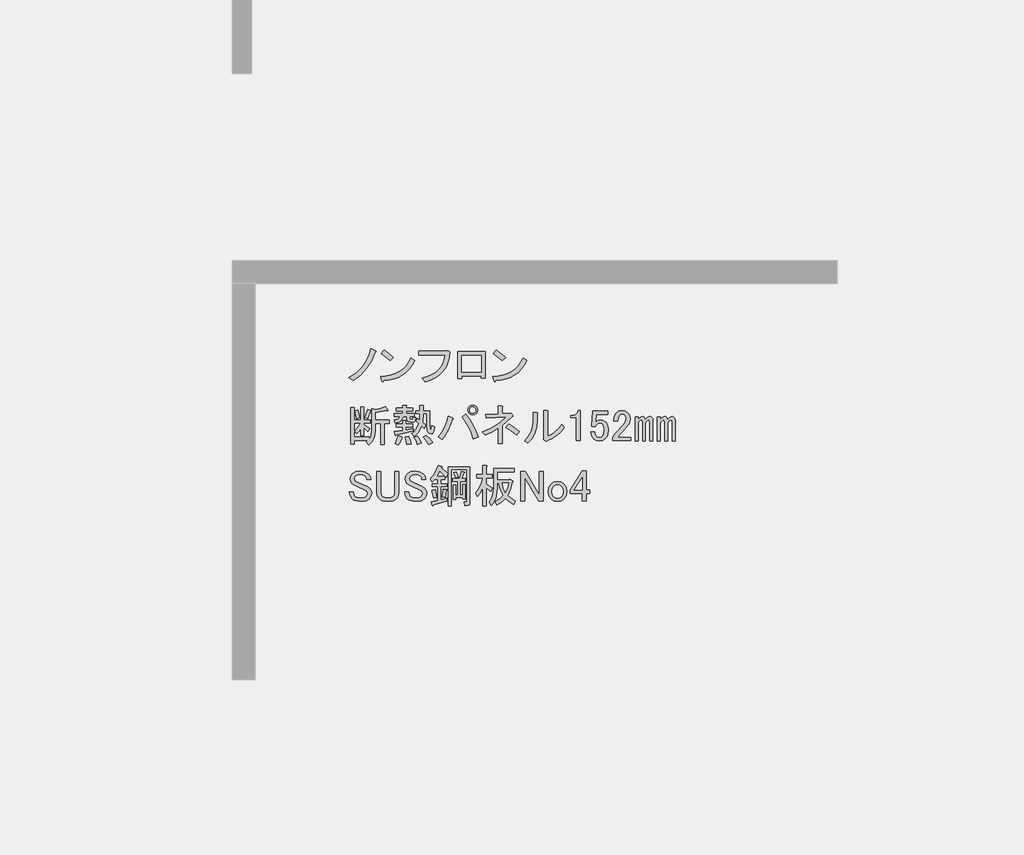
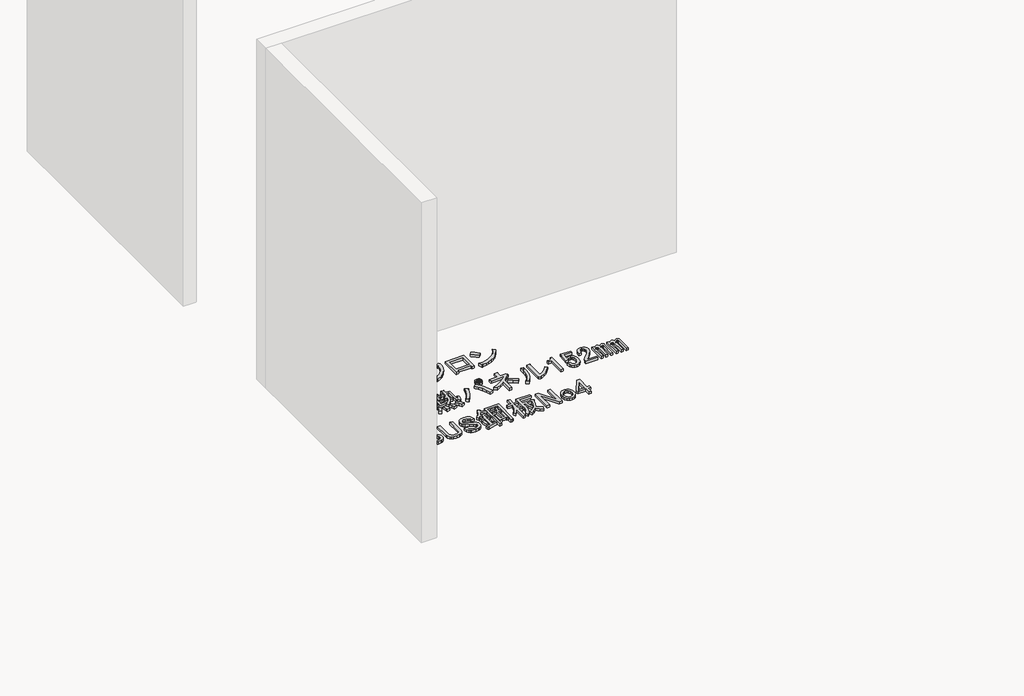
# One storey, part 44 of 117: 1 proxy.
"""IFC4 building model written with IfcOpenShell, lengths in millimetres."""

import ifcopenshell
import ifcopenshell.guid

model = None  # the IFC model being written
_history = None  # IfcOwnerHistory: only IFC2X3 demands one
_inside = {}  # id of a spatial element -> (the spatial element, [elements in it])
_under = {}  # id of a project, library or spatial element -> (it, [spatial elements below it])
_declared = {}  # id of a project -> (the project, [libraries it declares])
_typed = {}  # id of a type object -> (the type object, [elements of that type])
_made_of = {}  # id of a material, layer set ... -> (it, [elements and type objects made of it])


def new_model(schema):
    """Start an empty IFC model of exactly this schema.

    Asked for "IFC4X3", IfcOpenShell would pick the latest addendum, in which some entities
    have other attributes; the version numbers below select the first issue.
    IFC2X3 requires an IfcOwnerHistory on every rooted entity: one is made here for all.
    """
    global model, _history
    if schema == "IFC4X3":
        model = ifcopenshell.file(schema_version=(4, 3, 0, 0))
    else:
        model = ifcopenshell.file(schema=schema)
    _inside.clear()
    _under.clear()
    _declared.clear()
    _typed.clear()
    _made_of.clear()
    _history = None
    if model.schema == "IFC2X3":
        org = make("IfcOrganization", Name="unknown")
        user = make(
            "IfcPersonAndOrganization",
            ThePerson=make("IfcPerson", FamilyName="unknown"),
            TheOrganization=org,
        )
        app = make(
            "IfcApplication",
            ApplicationDeveloper=org,
            Version="unknown",
            ApplicationFullName="unknown",
            ApplicationIdentifier="unknown",
        )
        _history = make(
            "IfcOwnerHistory",
            OwningUser=user,
            OwningApplication=app,
            ChangeAction="ADDED",
            CreationDate=0,
        )
    return model


def make(cls, **values):
    """One entity of the class cls with the attributes given. An attribute that is None is left unset."""
    return model.create_entity(
        cls, **{name: value for name, value in values.items() if value is not None}
    )


def rooted(cls, **values):
    """An entity with a GlobalId (a new one), such as an element, a storey or a relation."""
    return make(cls, GlobalId=ifcopenshell.guid.new(), OwnerHistory=_history, **values)


def si_unit(unit_type, name, prefix=None):
    """IfcSIUnit, for example si_unit("LENGTHUNIT", "METRE", prefix="MILLI")."""
    return make("IfcSIUnit", UnitType=unit_type, Prefix=prefix, Name=name)


def assignment(units):
    """IfcUnitAssignment: the units of a project."""
    return None if units is None else make("IfcUnitAssignment", Units=units)


def point(xyz):
    """IfcCartesianPoint."""
    return None if xyz is None else make("IfcCartesianPoint", Coordinates=xyz)


def direction(xyz):
    """IfcDirection."""
    return None if xyz is None else make("IfcDirection", DirectionRatios=xyz)


def frame(location, z_axis=None, x_axis=None):
    """IfcAxis2Placement3D, a coordinate frame: its origin and axes. An axis left out is left unset."""
    return make(
        "IfcAxis2Placement3D",
        Location=point(location),
        Axis=direction(z_axis),
        RefDirection=direction(x_axis),
    )


def origin():
    """The frame at (0, 0, 0) with its axes left unset."""
    return frame((0.0, 0.0, 0.0))


def place(relative_to, where):
    """IfcLocalPlacement: puts the frame where relative to a parent placement (None: the world)."""
    return make(
        "IfcLocalPlacement", PlacementRelTo=relative_to, RelativePlacement=where
    )


def context(
    kind, dimensions, precision=None, world=None, true_north=None, identifier=None
):
    """IfcGeometricRepresentationContext, for example the 3D "Model" context."""
    return make(
        "IfcGeometricRepresentationContext",
        ContextIdentifier=identifier,
        ContextType=kind,
        CoordinateSpaceDimension=dimensions,
        Precision=precision,
        WorldCoordinateSystem=world,
        TrueNorth=true_north,
    )


def project(units=None, contexts=None):
    """IfcProject with its units and contexts."""
    return rooted(
        "IfcProject",
        Name="project",
        RepresentationContexts=contexts,
        UnitsInContext=assignment(units),
    )


def spatial(cls, under=None, at=None, **own):
    """A site, building, storey or space (cls), placed at a placement, below another one or the project."""
    s = rooted(cls, ObjectPlacement=at, **own)
    if under is not None:
        _under.setdefault(under.id(), (under, []))[1].append(s)
    return s


def polyline(points):
    """IfcPolyline through the points."""
    return make("IfcPolyline", Points=[point(p) for p in points])


def outline(outer, holes=None, kind="AREA"):
    """IfcArbitraryClosedProfileDef: a profile drawn as a closed curve; with holes, ...WithVoids."""
    if holes is None:
        return make("IfcArbitraryClosedProfileDef", ProfileType=kind, OuterCurve=outer)
    return make(
        "IfcArbitraryProfileDefWithVoids",
        ProfileType=kind,
        OuterCurve=outer,
        InnerCurves=holes,
    )


def extrude(swept, where, along, depth):
    """IfcExtrudedAreaSolid: the profile swept, set in the frame where, extruded along a direction by depth."""
    return make(
        "IfcExtrudedAreaSolid",
        SweptArea=swept,
        Position=where,
        ExtrudedDirection=direction(along),
        Depth=depth,
    )


def shape(context_of_items, identifier, shape_type, items):
    """IfcShapeRepresentation: the items that make up one representation, for example the "Body"."""
    return make(
        "IfcShapeRepresentation",
        ContextOfItems=context_of_items,
        RepresentationIdentifier=identifier,
        RepresentationType=shape_type,
        Items=items,
    )


def made_of(thing, what):
    """Note that an element or type object is made of a material, layer set ...; save() writes the relation."""
    if what is not None:
        _made_of.setdefault(what.id(), (what, []))[1].append(thing)
    return thing


def element(
    cls,
    number,
    at=None,
    inside=None,
    cuts=None,
    type_object=None,
    material=None,
    context=None,
    identifier="Body",
    shape_type=None,
    held_by="IfcProductDefinitionShape",
    body=None,
    shapes=None,
    **own,
):
    """One element of the class cls, such as IfcWall. Its Tag is "e" and its number.

    at: its placement. inside: the storey or other place that contains it. cuts: it is an
    opening in that element (IfcRelVoidsElement). A single representation is given by context,
    identifier, shape_type and body (its items); several are given by shapes. held_by: the class
    of the entity that holds the representations. save() writes the other relations.
    """
    e = rooted(cls, Tag="e%d" % number, ObjectPlacement=at, **own)
    if body is not None:
        shapes = [shape(context, identifier, shape_type, body)]
    if shapes is not None:
        e.Representation = make(held_by, Representations=shapes)
    if inside is not None:
        _inside.setdefault(inside.id(), (inside, []))[1].append(e)
    if cuts is not None:
        rooted(
            "IfcRelVoidsElement", RelatingBuildingElement=cuts, RelatedOpeningElement=e
        )
    if type_object is not None:
        _typed.setdefault(type_object.id(), (type_object, []))[1].append(e)
    return made_of(e, material)


def aggregate(whole, parts):
    """IfcRelAggregates: a whole, such as a stair, and the parts it consists of."""
    return rooted("IfcRelAggregates", RelatingObject=whole, RelatedObjects=parts)


def save(model, path):
    """Write the relations noted so far, then the file.

    IfcRelAggregates (storeys below a building ...), IfcRelContainedInSpatialStructure (elements
    in a storey), IfcRelDefinesByType, IfcRelAssociatesMaterial and IfcRelDeclares: one each for
    every whole, place, type object, material and project.
    """
    for whole, parts in _under.values():
        aggregate(whole, parts)
    for where, things in _inside.values():
        rooted(
            "IfcRelContainedInSpatialStructure",
            RelatedElements=things,
            RelatingStructure=where,
        )
    for kind, things in _typed.values():
        rooted("IfcRelDefinesByType", RelatedObjects=things, RelatingType=kind)
    for what, things in _made_of.values():
        rooted("IfcRelAssociatesMaterial", RelatedObjects=things, RelatingMaterial=what)
    for by, libraries in _declared.values():
        rooted("IfcRelDeclares", RelatingContext=by, RelatedDefinitions=libraries)
    model.write(path)


model = new_model("IFC4")

# Units and contexts
model_context = context("Model", 3, world=origin())
ifc_project = project(units=[si_unit("LENGTHUNIT", "METRE", prefix="MILLI")], contexts=[model_context])

# Site, building, storey
site = spatial("IfcSite", under=ifc_project)
building = spatial("IfcBuilding", under=site)
storey = spatial("IfcBuildingStorey", under=building, Name="レベル 1", Elevation=500.0)

# Proxy
placement = place(None, origin())
element("IfcBuildingElementProxy", 1, Name="200㎜\u3000MS Pゴシック", ObjectType="200㎜\u3000MS Pゴシック", at=placement, inside=storey, context=model_context, shape_type="SweptSolid", body=[
    extrude(outline(polyline([(16943.6706985, -12607.0496882), (16918.0952502, -12666.8215225), (16889.646156, -12712.7998566), (16847.9782907, -12758.2034615), (16798.8389462, -12795.560858), (16771.2519457, -12773.7211493), (16818.9544673, -12743.2605029), (16858.6107805, -12704.7536481), (16875.9963381, -12680.8305462), (16891.3703435, -12652.7406577), (16904.7327969, -12620.4839827), (16916.0836981, -12584.0605212), (16947.1190736, -12597.8540214), (16950.2800841, -12602.4518548), (16943.6706985, -12607.0496882)])), frame((0.0, 0.0, 500.0), z_axis=(0.0, 0.0, 1.0), x_axis=(1.0, 0.0, 0.0)), (0.0, 0.0, 1.0), 25.0),
    extrude(outline(polyline([(17043.3977052, -12662.2236891), (16984.7753292, -12615.0958967), (17004.3161212, -12590.9572713), (17031.6157571, -12610.7854279), (17065.2374138, -12640.3839804), (17043.3977052, -12662.2236891)])), frame((0.0, 0.0, 500.0), z_axis=(0.0, 0.0, 1.0), x_axis=(1.0, 0.0, 0.0)), (0.0, 0.0, 1.0), 25.0),
    extrude(outline(polyline([(17205.4713328, -12662.2236891), (17188.947869, -12691.965924), (17169.8381239, -12717.9724192), (17148.1420975, -12740.2431748), (17123.8597898, -12758.7781907), (17096.9912008, -12773.577467), (17067.5363306, -12784.6410036), (17035.495179, -12791.9688006), (17000.8677461, -12795.560858), (16995.1204544, -12803.6070664), (16989.3731626, -12797.8597747), (16980.1774958, -12767.9738575), (17016.0082679, -12765.2977748), (17048.7857912, -12758.9937141), (17078.5100658, -12749.0616756), (17105.1810916, -12735.5016591), (17128.7988687, -12718.3136646), (17149.363397, -12697.4976923), (17166.8746766, -12673.053742), (17181.3327074, -12644.9818138), (17205.4713328, -12662.2236891)])), frame((0.0, 0.0, 500.0), z_axis=(0.0, 0.0, 1.0), x_axis=(1.0, 0.0, 0.0)), (0.0, 0.0, 1.0), 25.0),
    extrude(outline(polyline([(17256.2314136, -12777.1695243), (17290.014713, -12767.4889298), (17319.5234641, -12755.1142922), (17344.757667, -12740.0456116), (17365.7173217, -12722.282888), (17382.402428, -12701.8261214), (17394.8129862, -12678.6753118), (17402.9489961, -12652.8304591), (17406.8104577, -12624.2915635), (17234.3917049, -12624.2915635), (17234.3917049, -12599.0034798), (17409.1093744, -12599.0034798), (17425.2017914, -12595.5551047), (17437.8458332, -12607.0496882), (17434.325617, -12643.5449909), (17426.0638851, -12676.5919185), (17413.0606375, -12706.1904711), (17395.3158742, -12732.3406486), (17372.8295952, -12755.042451), (17345.6018005, -12774.2958784), (17313.6324901, -12790.1009308), (17276.921664, -12802.4576081), (17256.2314136, -12777.1695243)])), frame((0.0, 0.0, 500.0), z_axis=(0.0, 0.0, 1.0), x_axis=(1.0, 0.0, 0.0)), (0.0, 0.0, 1.0), 25.0),
    extrude(outline(polyline([(17670.955987, -12776.020066), (17644.5184449, -12776.020066), (17644.5184449, -12763.3760241), (17516.9285679, -12763.3760241), (17516.9285679, -12781.7673577), (17490.4910258, -12781.7673577), (17490.4910258, -12602.4518548), (17670.955987, -12602.4518548), (17670.955987, -12776.020066)]), holes=[polyline([(17516.9285679, -12627.7399386), (17516.9285679, -12738.0879404), (17644.5184449, -12738.0879404), (17644.5184449, -12627.7399386), (17516.9285679, -12627.7399386)])]), frame((0.0, 0.0, 500.0), z_axis=(0.0, 0.0, 1.0), x_axis=(1.0, 0.0, 0.0)), (0.0, 0.0, 1.0), 25.0),
    extrude(outline(polyline([(17947.0099049, -12662.2236891), (17930.4864411, -12691.965924), (17911.376696, -12717.9724192), (17889.6806696, -12740.2431748), (17865.3983619, -12758.7781907), (17838.5297729, -12773.577467), (17809.0749026, -12784.6410036), (17777.0337511, -12791.9688006), (17742.4063182, -12795.560858), (17736.6590264, -12803.6070664), (17730.9117347, -12797.8597747), (17721.7160679, -12767.9738575), (17757.5468399, -12765.2977748), (17790.3243633, -12758.9937141), (17820.0486378, -12749.0616756), (17846.7196637, -12735.5016591), (17870.3374407, -12718.3136646), (17890.9019691, -12697.4976923), (17908.4132486, -12673.053742), (17922.8712795, -12644.9818138), (17947.0099049, -12662.2236891)])), frame((0.0, 0.0, 500.0), z_axis=(0.0, 0.0, 1.0), x_axis=(1.0, 0.0, 0.0)), (0.0, 0.0, 1.0), 25.0),
    extrude(outline(polyline([(17784.9362772, -12662.2236891), (17726.3139013, -12615.0958967), (17745.8546933, -12590.9572713), (17773.1543291, -12610.7854279), (17806.7759859, -12640.3839804), (17784.9362772, -12662.2236891)])), frame((0.0, 0.0, 500.0), z_axis=(0.0, 0.0, 1.0), x_axis=(1.0, 0.0, 0.0)), (0.0, 0.0, 1.0), 25.0),
    extrude(outline(polyline([(16877.0021141, -13039.2345221), (16894.2439894, -12986.3594379), (16914.9342397, -12992.1067296), (16916.6584273, -12995.2677401), (16912.635323, -12997.8540214), (16895.3934477, -13046.1312722), (16877.0021141, -13039.2345221)])), frame((0.0, 0.0, 500.0), z_axis=(0.0, 0.0, 1.0), x_axis=(1.0, 0.0, 0.0)), (0.0, 0.0, 1.0), 25.0),
    extrude(outline(polyline([(17031.0295333, -12990.9572713), (17029.3053458, -12995.5551047), (17021.8338665, -12993.256188), (16944.8201569, -13005.9002299), (16944.8201569, -13055.326939), (17036.7768251, -13055.326939), (17036.7768251, -13077.1666477), (17005.7414495, -13077.1666477), (17005.7414495, -13217.4005666), (16982.7522825, -13217.4005666), (16982.7522825, -13077.1666477), (16944.8201569, -13077.1666477), (16944.8201569, -13126.5933568), (16942.2338756, -13154.3958807), (16934.4750317, -13179.1810764), (16921.5436253, -13200.948944), (16903.4396562, -13219.6994833), (16886.1977809, -13200.1586914), (16896.5429061, -13190.9630245), (16806.8851546, -13190.9630245), (16806.8851546, -13212.8027332), (16783.8959876, -13212.8027332), (16783.8959876, -12973.715396), (16805.7356963, -12973.715396), (16810.6208943, -12976.0143127), (16806.8851546, -12980.6121461), (16806.8851546, -13056.4763974), (16849.4151137, -13056.4763974), (16849.4151137, -12969.1175626), (16867.8064473, -12969.1175626), (16872.6916453, -12971.4164793), (16868.9559057, -12976.0143127), (16868.9559057, -13056.4763974), (16912.635323, -13056.4763974), (16912.635323, -13074.867731), (16868.9559057, -13074.867731), (16868.9559057, -13084.0633978), (16909.186948, -13110.5009399), (16895.3934477, -13132.3406486), (16868.9559057, -13105.9031065), (16868.9559057, -13158.7781907), (16849.4151137, -13158.7781907), (16849.4151137, -13110.5009399), (16836.1963426, -13130.3290965), (16821.8281132, -13146.1341488), (16809.1840713, -13127.7428152), (16831.02378, -13103.6041898), (16848.2656553, -13074.867731), (16806.8851546, -13074.867731), (16806.8851546, -13169.1233159), (16904.5891146, -13169.1233159), (16904.5891146, -13182.9168161), (16917.520521, -13158.7781907), (16921.8309898, -13125.4438985), (16921.8309898, -12980.6121461), (16943.6706985, -12986.3594379), (16979.8786366, -12978.8879586), (17010.339283, -12965.6691875), (17031.0295333, -12990.9572713)])), frame((0.0, 0.0, 500.0), z_axis=(0.0, 0.0, 1.0), x_axis=(1.0, 0.0, 0.0)), (0.0, 0.0, 1.0), 25.0),
    extrude(outline(polyline([(16822.9775716, -13047.2807305), (16810.3335297, -12996.7045631), (16829.8743217, -12989.8078129), (16837.6331656, -13013.9464383), (16842.5183636, -13040.3839804), (16822.9775716, -13047.2807305)])), frame((0.0, 0.0, 500.0), z_axis=(0.0, 0.0, 1.0), x_axis=(1.0, 0.0, 0.0)), (0.0, 0.0, 1.0), 25.0),
    extrude(outline(polyline([(17121.8367431, -13167.9738575), (17125.2851182, -13172.8590555), (17119.5378264, -13176.020066), (17109.7674304, -13201.5955143), (17098.8475761, -13220.8489417), (17075.858409, -13209.3543582), (17088.5024509, -13185.790462), (17098.8475761, -13158.7781907), (17121.8367431, -13167.9738575)])), frame((0.0, 0.0, 500.0), z_axis=(0.0, 0.0, 1.0), x_axis=(1.0, 0.0, 0.0)), (0.0, 0.0, 1.0), 25.0),
    extrude(outline(polyline([(17166.6656188, -13163.3760241), (17176.7233794, -13190.67566), (17181.6085774, -13212.8027332), (17152.8721186, -13218.550025), (17150.2858373, -13196.9976809), (17142.5269934, -13166.8243992), (17166.6656188, -13163.3760241)])), frame((0.0, 0.0, 500.0), z_axis=(0.0, 0.0, 1.0), x_axis=(1.0, 0.0, 0.0)), (0.0, 0.0, 1.0), 25.0),
    extrude(outline(polyline([(17281.611454, -13157.6287323), (17306.3248086, -13178.8937119), (17325.2908714, -13203.6070664), (17298.8533293, -13218.550025), (17279.5999019, -13188.9514724), (17260.9212037, -13169.1233159), (17281.611454, -13157.6287323)])), frame((0.0, 0.0, 500.0), z_axis=(0.0, 0.0, 1.0), x_axis=(1.0, 0.0, 0.0)), (0.0, 0.0, 1.0), 25.0),
    extrude(outline(polyline([(17222.9890781, -13216.2511083), (17214.655505, -13191.5377537), (17201.1493694, -13170.2727742), (17221.8396197, -13162.2265657), (17238.7941304, -13183.7789098), (17250.5760785, -13207.0554415), (17222.9890781, -13216.2511083)])), frame((0.0, 0.0, 500.0), z_axis=(0.0, 0.0, 1.0), x_axis=(1.0, 0.0, 0.0)), (0.0, 0.0, 1.0), 25.0),
    extrude(outline(polyline([(17083.9046175, -13153.0308989), (17081.8930654, -13157.9160969), (17078.1573257, -13156.479274), (17072.410034, -13132.3406486), (17127.5840349, -13124.2944401), (17127.5840349, -13101.3052731), (17083.9046175, -13101.3052731), (17083.9046175, -13082.9139395), (17127.5840349, -13082.9139395), (17127.5840349, -13059.9247724), (17145.9753685, -13059.9247724), (17150.8605665, -13062.2236891), (17147.1248268, -13066.8215225), (17147.1248268, -13082.9139395), (17191.9537026, -13082.9139395), (17191.9537026, -13101.3052731), (17147.1248268, -13101.3052731), (17147.1248268, -13120.8460651), (17197.7009943, -13111.6503983), (17197.7009943, -13127.7428152), (17083.9046175, -13153.0308989)])), frame((0.0, 0.0, 500.0), z_axis=(0.0, 0.0, 1.0), x_axis=(1.0, 0.0, 0.0)), (0.0, 0.0, 1.0), 25.0),
    extrude(outline(polyline([(17154.021577, -13031.1883136), (17128.7334932, -13031.1883136), (17124.1356598, -13048.6457123), (17113.7905346, -13061.9363245), (17097.6981177, -13071.0601502), (17075.858409, -13076.0171893), (17071.2605756, -13056.4763974), (17096.5486594, -13047.8554597), (17104.0201386, -13040.5276627), (17108.0432429, -13031.1883136), (17072.410034, -13031.1883136), (17072.410034, -13012.79698), (17126.4345765, -13012.79698), (17126.4345765, -12995.5551047), (17082.7551591, -12995.5551047), (17082.7551591, -12977.1637711), (17126.4345765, -12977.1637711), (17126.4345765, -12958.7724374), (17148.2742852, -12958.7724374), (17153.1594832, -12961.0713541), (17149.4237436, -12965.6691875), (17149.4237436, -12977.1637711), (17191.9537026, -12977.1637711), (17191.9537026, -12995.5551047), (17149.4237436, -12995.5551047), (17149.4237436, -13012.79698), (17202.2988277, -13012.79698), (17202.2988277, -13031.1883136), (17173.5623689, -13031.1883136), (17173.5623689, -13043.8323555), (17174.9991919, -13049.0049181), (17179.3096607, -13050.7291056), (17189.6547859, -13050.7291056), (17193.3905255, -13047.5680951), (17193.1031609, -13038.0850637), (17212.6439529, -13040.3839804), (17209.770307, -13061.9363245), (17204.4540622, -13067.3244106), (17196.551536, -13069.1204392), (17172.4129106, -13069.1204392), (17158.6194104, -13064.2352412), (17154.021577, -13049.5796472), (17154.021577, -13031.1883136)])), frame((0.0, 0.0, 500.0), z_axis=(0.0, 0.0, 1.0), x_axis=(1.0, 0.0, 0.0)), (0.0, 0.0, 1.0), 25.0),
    extrude(outline(polyline([(17285.0598291, -13013.9464383), (17263.2201204, -13013.9464383), (17258.622287, -13071.4193559), (17278.163079, -13089.8106896), (17267.8179538, -13111.6503983), (17251.7255369, -13095.5579813), (17232.4721095, -13133.2027424), (17202.2988277, -13165.6749408), (17185.0569525, -13144.9846905), (17200.1435933, -13133.0590601), (17213.2186821, -13117.9724192), (17224.2822187, -13099.7247679), (17233.3342033, -13078.316106), (17216.092328, -13063.3731475), (17224.1385364, -13046.1312722), (17237.9320367, -13056.4763974), (17240.2309534, -13013.9464383), (17212.6439529, -13013.9464383), (17212.6439529, -12995.5551047), (17240.2309534, -12995.5551047), (17240.2309534, -12961.0713541), (17262.0706621, -12961.0713541), (17266.95586, -12963.3702708), (17263.2201204, -12967.9681043), (17263.2201204, -12995.5551047), (17304.6006211, -12995.5551047), (17304.6006211, -13092.1096063), (17308.0489961, -13116.2482317), (17311.2818477, -13118.2597838), (17314.0836525, -13115.0987733), (17318.3941213, -13093.2590646), (17337.9349133, -13100.1558147), (17333.408921, -13126.9525626), (17325.578236, -13142.9731384), (17314.4428582, -13148.2175421), (17300.0027877, -13142.6857738), (17293.4652433, -13135.3579768), (17288.7955687, -13123.719711), (17285.0598291, -13087.5117729), (17285.0598291, -13013.9464383)])), frame((0.0, 0.0, 500.0), z_axis=(0.0, 0.0, 1.0), x_axis=(1.0, 0.0, 0.0)), (0.0, 0.0, 1.0), 25.0),
    extrude(outline(polyline([(17543.6879583, -13016.245355), (17570.3410238, -13052.9561812), (17592.8273029, -13090.6727833), (17611.1467953, -13129.3951616), (17625.2995013, -13169.1233159), (17594.2641258, -13179.468441), (17578.8182792, -13136.3637528), (17561.2171982, -13097.856898), (17541.4608827, -13063.9478766), (17519.5493329, -13034.6366887), (17543.6879583, -13016.245355)])), frame((0.0, 0.0, 500.0), z_axis=(0.0, 0.0, 1.0), x_axis=(1.0, 0.0, 0.0)), (0.0, 0.0, 1.0), 25.0),
    extrude(outline(polyline([(17456.3291235, -13042.6828971), (17460.3522278, -13048.1428243), (17454.0302068, -13053.0280223), (17442.1045764, -13088.4457078), (17427.0179356, -13122.282888), (17408.7702842, -13154.539563), (17387.3616224, -13185.2157328), (17360.9240803, -13167.9738575), (17384.1287708, -13136.5074351), (17403.1666748, -13103.0294606), (17418.0377922, -13067.539934), (17428.7421231, -13030.0388553), (17456.3291235, -13042.6828971)])), frame((0.0, 0.0, 500.0), z_axis=(0.0, 0.0, 1.0), x_axis=(1.0, 0.0, 0.0)), (0.0, 0.0, 1.0), 25.0),
    extrude(outline(polyline([(17589.6662924, -13021.9926468), (17577.0222505, -13019.6937301), (17566.6771253, -13012.79698), (17559.7803752, -13002.4518548), (17557.4814585, -12989.8078129), (17559.7803752, -12977.1637711), (17566.6771253, -12966.8186459), (17577.0222505, -12959.9218958), (17589.6662924, -12957.6229791), (17602.3103343, -12959.9218958), (17612.6554594, -12966.8186459), (17619.5522095, -12977.1637711), (17621.8511262, -12989.8078129), (17619.5522095, -13002.4518548), (17612.6554594, -13012.79698), (17602.3103343, -13019.6937301), (17589.6662924, -13021.9926468)]), holes=[polyline([(17589.6662924, -13010.4980633), (17597.9998654, -13009.0612403), (17604.609251, -13004.7507715), (17608.9197198, -12998.141386), (17610.3565427, -12989.8078129), (17608.9197198, -12981.4742399), (17604.609251, -12974.8648544), (17597.9998654, -12970.5543855), (17589.6662924, -12969.1175626), (17581.3327193, -12970.5543855), (17574.7233338, -12974.8648544), (17570.412865, -12981.4742399), (17568.976042, -12989.8078129), (17570.412865, -12998.141386), (17574.7233338, -13004.7507715), (17581.3327193, -13009.0612403), (17589.6662924, -13010.4980633)])]), frame((0.0, 0.0, 500.0), z_axis=(0.0, 0.0, 1.0), x_axis=(1.0, 0.0, 0.0)), (0.0, 0.0, 1.0), 25.0),
    extrude(outline(polyline([(17879.3297971, -13155.3298156), (17842.2597652, -13126.0186277), (17809.2128376, -13104.7536481), (17826.4547129, -13082.9139395), (17865.2489323, -13106.1904711), (17898.8705891, -13132.3406486), (17879.3297971, -13155.3298156)])), frame((0.0, 0.0, 500.0), z_axis=(0.0, 0.0, 1.0), x_axis=(1.0, 0.0, 0.0)), (0.0, 0.0, 1.0), 25.0),
    extrude(outline(polyline([(17833.351463, -13011.6475216), (17840.2482131, -13009.3486049), (17852.892255, -13026.5904802), (17854.0417134, -13032.6251366), (17848.2944216, -13034.6366887), (17785.0742122, -13090.9601479), (17785.0742122, -13211.6532749), (17758.6366701, -13211.6532749), (17758.6366701, -13109.3514816), (17718.4056278, -13133.4901069), (17673.5767521, -13155.3298156), (17654.0359601, -13134.6395653), (17699.5832473, -13115.1706145), (17740.8200657, -13092.3969709), (17777.7464152, -13066.3186345), (17810.362296, -13036.9356054), (17680.4735022, -13042.6828971), (17677.0251271, -13017.3948134), (17758.6366701, -13015.0958967), (17758.6366701, -12963.3702708), (17781.6258372, -12963.3702708), (17787.6604935, -12966.8186459), (17785.0742122, -12972.5659377), (17785.0742122, -13013.9464383), (17833.351463, -13011.6475216)])), frame((0.0, 0.0, 500.0), z_axis=(0.0, 0.0, 1.0), x_axis=(1.0, 0.0, 0.0)), (0.0, 0.0, 1.0), 25.0),
    extrude(outline(polyline([(17932.296838, -13193.2619413), (17957.4412394, -13164.0225944), (17975.4015262, -13131.4785548), (17986.1776982, -13095.6298225), (17989.7697556, -13056.4763974), (17989.7697556, -13004.7507715), (18013.908381, -13004.7507715), (18019.6556727, -13008.1991466), (18016.2072977, -13013.9464383), (18016.2072977, -13055.326939), (18012.3997169, -13101.0897496), (18000.9769745, -13141.82368), (17981.9390705, -13177.5287301), (17955.286005, -13208.2048998), (17932.296838, -13193.2619413)])), frame((0.0, 0.0, 500.0), z_axis=(0.0, 0.0, 1.0), x_axis=(1.0, 0.0, 0.0)), (0.0, 0.0, 1.0), 25.0),
    extrude(outline(polyline([(18086.3242571, -13162.2265657), (18111.1094529, -13150.0135708), (18134.8888725, -13132.9153778), (18157.6625161, -13110.9319868), (18179.4303837, -13084.0633978), (18195.5228006, -13105.9031065), (18172.246269, -13133.7056304), (18146.0960914, -13157.3413678), (18117.0722681, -13176.8103186), (18085.1747988, -13192.1124829), (18075.979132, -13196.7103163), (18057.5877983, -13182.9168161), (18059.886715, -13177.1695243), (18059.886715, -12992.1067296), (18084.0253404, -12992.1067296), (18089.7726322, -12995.5551047), (18086.3242571, -13001.3023965), (18086.3242571, -13162.2265657)])), frame((0.0, 0.0, 500.0), z_axis=(0.0, 0.0, 1.0), x_axis=(1.0, 0.0, 0.0)), (0.0, 0.0, 1.0), 25.0),
    extrude(outline(polyline([(18274.8354269, -13015.0958967), (18282.8816353, -13004.1760423), (18286.3300104, -12992.1067296), (18300.1235106, -12992.1067296), (18300.1235106, -13190.9630245), (18273.6859685, -13190.9630245), (18273.6859685, -13038.0850637), (18239.202218, -13038.0850637), (18239.202218, -13024.2915635), (18249.5473431, -13024.2915635), (18263.9155725, -13021.9926468), (18274.8354269, -13015.0958967)])), frame((0.0, 0.0, 500.0), z_axis=(0.0, 0.0, 1.0), x_axis=(1.0, 0.0, 0.0)), (0.0, 0.0, 1.0), 25.0),
    extrude(outline(polyline([(18384.0339703, -12995.5551047), (18482.8873886, -12995.5551047), (18482.8873886, -13017.3948134), (18405.873679, -13017.3948134), (18405.873679, -13020.8431884), (18402.4253039, -13063.3731475), (18401.2758456, -13070.2698976), (18416.7935333, -13059.9247724), (18433.4606795, -13056.4763974), (18454.4382944, -13060.212137), (18471.3928051, -13071.4193559), (18483.4621178, -13091.2475125), (18487.485222, -13118.5471484), (18482.3126594, -13153.0308989), (18475.8469562, -13166.8243992), (18466.7949717, -13178.3189827), (18448.6910026, -13190.3882954), (18426.5639293, -13194.4113996), (18405.5863144, -13190.67566), (18388.6318037, -13179.468441), (18376.562491, -13160.7897428), (18370.2404701, -13134.6395653), (18396.6780122, -13134.6395653), (18400.7011164, -13153.3182635), (18408.1725957, -13165.6749408), (18415.9314396, -13170.8475034), (18425.414471, -13172.5716909), (18437.7711483, -13170.5601388), (18447.2541797, -13164.5254825), (18456.7372111, -13147.5709718), (18459.8982215, -13121.9955234), (18457.3119403, -13097.856898), (18449.5530964, -13082.9139395), (18442.0816171, -13077.7413769), (18433.4606795, -13076.0171893), (18420.529273, -13078.6034706), (18409.3220541, -13086.3623145), (18400.1263872, -13096.7074397), (18377.1372202, -13096.7074397), (18378.2866786, -13088.6612312), (18384.0339703, -13000.1529381), (18384.0339703, -12995.5551047)])), frame((0.0, 0.0, 500.0), z_axis=(0.0, 0.0, 1.0), x_axis=(1.0, 0.0, 0.0)), (0.0, 0.0, 1.0), 25.0),
    extrude(outline(polyline([(18521.9689726, -13062.2236891), (18526.566806, -13030.900949), (18540.3603062, -13008.1991466), (18556.7400877, -12996.9919276), (18575.9935151, -12993.256188), (18598.6953176, -12996.9919276), (18616.2245574, -13008.1991466), (18627.4317764, -13024.8662927), (18631.167516, -13044.9818138), (18626.8570472, -13070.8446268), (18613.9256407, -13093.2590646), (18580.5913485, -13131.1911902), (18562.2000149, -13151.8814406), (18548.4065147, -13170.2727742), (18634.6158911, -13170.2727742), (18634.6158911, -13192.1124829), (18517.3711392, -13192.1124829), (18517.3711392, -13172.5716909), (18523.4057955, -13158.7781907), (18536.9119311, -13140.3868571), (18584.0397236, -13088.6612312), (18598.6953176, -13067.3962517), (18603.5805156, -13044.9818138), (18601.2815989, -13032.337772), (18594.3848487, -13021.9926468), (18586.6260049, -13016.8200842), (18577.1429735, -13015.0958967), (18568.5220358, -13016.8200842), (18561.0505565, -13021.9926468), (18551.5675251, -13038.3724283), (18548.4065147, -13062.2236891), (18521.9689726, -13062.2236891)])), frame((0.0, 0.0, 500.0), z_axis=(0.0, 0.0, 1.0), x_axis=(1.0, 0.0, 0.0)), (0.0, 0.0, 1.0), 25.0),
    extrude(outline(polyline([(18905.8880621, -13032.337772), (18914.2216352, -13033.7745949), (18920.8310207, -13038.0850637), (18926.0035833, -13046.7060014), (18927.7277708, -13058.7753141), (18927.7277708, -13193.2619413), (18908.1869788, -13193.2619413), (18908.1869788, -13069.1204392), (18905.6006976, -13059.6374078), (18897.8418537, -13056.4763974), (18887.4967285, -13061.0742308), (18881.4620722, -13069.6951684), (18879.45052, -13079.4655644), (18879.45052, -13193.2619413), (18859.9097281, -13193.2619413), (18859.9097281, -13069.1204392), (18857.3234468, -13059.6374078), (18849.5646029, -13056.4763974), (18839.2194777, -13061.0742308), (18833.1848214, -13069.6951684), (18831.1732693, -13079.4655644), (18831.1732693, -13193.2619413), (18811.6324773, -13193.2619413), (18811.6324773, -13035.786147), (18831.1732693, -13035.786147), (18831.1732693, -13053.0280223), (18843.242582, -13037.5103346), (18856.461353, -13032.337772), (18865.6570198, -13033.7745949), (18872.5537699, -13038.0850637), (18879.45052, -13051.878564), (18892.3819265, -13037.22297), (18905.8880621, -13032.337772)])), frame((0.0, 0.0, 500.0), z_axis=(0.0, 0.0, 1.0), x_axis=(1.0, 0.0, 0.0)), (0.0, 0.0, 1.0), 25.0),
    extrude(outline(polyline([(18684.0426002, -13193.2619413), (18664.5018082, -13193.2619413), (18664.5018082, -13035.786147), (18684.0426002, -13035.786147), (18684.0426002, -13053.0280223), (18696.1119129, -13037.5103346), (18709.3306839, -13032.337772), (18718.5263508, -13033.7745949), (18725.4231009, -13038.0850637), (18732.319851, -13051.878564), (18745.2512574, -13037.22297), (18758.7573931, -13032.337772), (18767.0909661, -13033.7745949), (18773.7003517, -13038.0850637), (18778.8729142, -13046.7060014), (18780.5971018, -13058.7753141), (18780.5971018, -13193.2619413), (18761.0563098, -13193.2619413), (18761.0563098, -13069.1204392), (18758.4700285, -13059.6374078), (18750.7111846, -13056.4763974), (18740.3660594, -13061.0742308), (18734.3314031, -13069.6951684), (18732.319851, -13079.4655644), (18732.319851, -13193.2619413), (18712.779059, -13193.2619413), (18712.779059, -13069.1204392), (18710.1927777, -13059.6374078), (18702.4339338, -13056.4763974), (18692.0888087, -13061.0742308), (18686.0541523, -13069.6951684), (18684.0426002, -13079.4655644), (18684.0426002, -13193.2619413)])), frame((0.0, 0.0, 500.0), z_axis=(0.0, 0.0, 1.0), x_axis=(1.0, 0.0, 0.0)), (0.0, 0.0, 1.0), 25.0),
    extrude(outline(polyline([(16779.2981542, -13447.2807305), (16783.3212584, -13426.8778448), (16795.3905711, -13409.3486049), (16815.7934569, -13397.2792922), (16844.8172803, -13393.256188), (16876.1400204, -13397.8540214), (16898.8418228, -13411.6475216), (16910.9111355, -13429.1767615), (16914.9342397, -13449.5796472), (16888.4966976, -13449.5796472), (16886.1977809, -13436.9356054), (16879.3010308, -13426.5904802), (16866.0822598, -13418.8316363), (16847.116197, -13416.245355), (16826.7133112, -13418.5442717), (16813.7819048, -13425.4410219), (16807.7472484, -13434.0619595), (16805.7356963, -13443.8323555), (16810.3335297, -13458.7753141), (16831.02378, -13470.2698976), (16890.7956143, -13496.7074397), (16908.0374896, -13508.2020232), (16917.520521, -13521.9955234), (16920.6815315, -13538.0879404), (16916.6584273, -13559.3529199), (16904.5891146, -13577.1695243), (16894.6031951, -13584.7128448), (16881.8873121, -13590.1009308), (16848.2656553, -13594.4113996), (16814.6439985, -13589.238837), (16801.0660217, -13582.7731338), (16789.6432794, -13573.7211493), (16778.4360604, -13555.3298156), (16774.7003208, -13530.0417319), (16801.1378629, -13530.0417319), (16803.4367796, -13547.8583363), (16810.3335297, -13559.927649), (16826.4259466, -13569.4106804), (16849.4151137, -13572.5716909), (16870.3927286, -13569.698045), (16885.0483226, -13561.0771074), (16891.9450727, -13551.8814406), (16894.2439894, -13542.6857738), (16892.5198019, -13533.2027424), (16887.3472393, -13525.4438985), (16868.9559057, -13513.949315), (16839.0699885, -13500.1558147), (16805.7356963, -13485.2128562), (16789.6432794, -13474.867731), (16781.8844355, -13462.7984183), (16779.2981542, -13447.2807305)])), frame((0.0, 0.0, 500.0), z_axis=(0.0, 0.0, 1.0), x_axis=(1.0, 0.0, 0.0)), (0.0, 0.0, 1.0), 25.0),
    extrude(outline(polyline([(16954.7054987, -13395.5551047), (16981.1430408, -13395.5551047), (16981.1430408, -13533.4901069), (16983.7293221, -13548.1457009), (16991.488166, -13559.927649), (17007.0058537, -13569.4106804), (17028.2708332, -13572.5716909), (17049.5358128, -13569.4106804), (17065.0535005, -13559.927649), (17072.8123444, -13548.1457009), (17075.3986257, -13533.4901069), (17075.3986257, -13395.5551047), (17101.8361678, -13395.5551047), (17101.8361678, -13534.6395653), (17097.8130635, -13557.6287323), (17085.7437508, -13576.020066), (17075.2549434, -13584.0662744), (17062.1798546, -13589.8135662), (17028.2708332, -13594.4113996), (16994.3618119, -13589.8135662), (16981.2867231, -13584.0662744), (16970.7979156, -13576.020066), (16958.7286029, -13557.6287323), (16954.7054987, -13534.6395653), (16954.7054987, -13395.5551047)])), frame((0.0, 0.0, 500.0), z_axis=(0.0, 0.0, 1.0), x_axis=(1.0, 0.0, 0.0)), (0.0, 0.0, 1.0), 25.0),
    extrude(outline(polyline([(17144.1822135, -13447.2807305), (17148.2053177, -13426.8778448), (17160.2746304, -13409.3486049), (17180.6775161, -13397.2792922), (17209.7013395, -13393.256188), (17241.0240796, -13397.8540214), (17263.7258821, -13411.6475216), (17275.7951948, -13429.1767615), (17279.818299, -13449.5796472), (17253.3807569, -13449.5796472), (17251.0818402, -13436.9356054), (17244.1850901, -13426.5904802), (17230.966319, -13418.8316363), (17212.0002562, -13416.245355), (17191.5973705, -13418.5442717), (17178.665964, -13425.4410219), (17172.6313077, -13434.0619595), (17170.6197556, -13443.8323555), (17175.217589, -13458.7753141), (17195.9078393, -13470.2698976), (17255.6796736, -13496.7074397), (17272.9215489, -13508.2020232), (17282.4045803, -13521.9955234), (17285.5655908, -13538.0879404), (17281.5424865, -13559.3529199), (17269.4731738, -13577.1695243), (17259.4872544, -13584.7128448), (17246.7713714, -13590.1009308), (17213.1497146, -13594.4113996), (17179.5280578, -13589.238837), (17165.950081, -13582.7731338), (17154.5273386, -13573.7211493), (17143.3201197, -13555.3298156), (17139.5843801, -13530.0417319), (17166.0219222, -13530.0417319), (17168.3208389, -13547.8583363), (17175.217589, -13559.927649), (17191.3100059, -13569.4106804), (17214.2991729, -13572.5716909), (17235.2767879, -13569.698045), (17249.9323819, -13561.0771074), (17256.829132, -13551.8814406), (17259.1280487, -13542.6857738), (17257.4038611, -13533.2027424), (17252.2312986, -13525.4438985), (17233.8399649, -13513.949315), (17203.9540478, -13500.1558147), (17170.6197556, -13485.2128562), (17154.5273386, -13474.867731), (17146.7684948, -13462.7984183), (17144.1822135, -13447.2807305)])), frame((0.0, 0.0, 500.0), z_axis=(0.0, 0.0, 1.0), x_axis=(1.0, 0.0, 0.0)), (0.0, 0.0, 1.0), 25.0),
    extrude(outline(polyline([(17481.6631856, -13397.8540214), (17488.8473003, -13413.0843446), (17494.3072275, -13433.4872303), (17477.0653522, -13439.2345221), (17465.5707687, -13402.4518548), (17481.6631856, -13397.8540214)])), frame((0.0, 0.0, 500.0), z_axis=(0.0, 0.0, 1.0), x_axis=(1.0, 0.0, 0.0)), (0.0, 0.0, 1.0), 25.0),
    extrude(outline(polyline([(17534.5382698, -13399.0034798), (17537.1245511, -13402.4518548), (17531.0898948, -13405.9002299), (17518.4458529, -13443.8323555), (17539.1361032, -13443.8323555), (17539.1361032, -13462.2236891), (17508.1007277, -13462.2236891), (17508.1007277, -13550.7319822), (17523.0436863, -13550.7319822), (17523.0436863, -13482.9139395), (17539.1361032, -13482.9139395), (17539.1361032, -13577.1695243), (17523.0436863, -13577.1695243), (17523.0436863, -13569.1233159), (17477.0653522, -13569.1233159), (17477.0653522, -13581.7673577), (17460.9729353, -13581.7673577), (17460.9729353, -13485.2128562), (17477.0653522, -13485.2128562), (17477.0653522, -13550.7319822), (17492.0083108, -13550.7319822), (17492.0083108, -13462.2236891), (17456.3751019, -13462.2236891), (17456.3751019, -13443.8323555), (17502.353436, -13443.8323555), (17512.6985611, -13394.4056463), (17534.5382698, -13399.0034798)])), frame((0.0, 0.0, 500.0), z_axis=(0.0, 0.0, 1.0), x_axis=(1.0, 0.0, 0.0)), (0.0, 0.0, 1.0), 25.0),
    extrude(outline(polyline([(17413.8451429, -13434.6366887), (17372.4646422, -13390.9572713), (17350.6249335, -13430.0388553), (17405.7989344, -13430.0388553), (17405.7989344, -13448.4301889), (17379.3613923, -13448.4301889), (17379.3613923, -13477.1666477), (17417.2935179, -13477.1666477), (17417.2935179, -13495.5579813), (17379.3613923, -13495.5579813), (17379.3613923, -13582.9168161), (17418.4429763, -13572.5716909), (17420.741893, -13592.1124829), (17328.7852248, -13617.4005666), (17326.4863081, -13623.1478584), (17321.8884747, -13619.6994833), (17314.9917246, -13596.7103163), (17359.8206003, -13587.5146495), (17359.8206003, -13495.5579813), (17321.8884747, -13495.5579813), (17321.8884747, -13477.1666477), (17359.8206003, -13477.1666477), (17359.8206003, -13448.4301889), (17337.9808916, -13448.4301889), (17323.037933, -13466.8215225), (17310.3938912, -13446.1312722), (17338.5556208, -13408.4865112), (17363.2689754, -13357.6229791), (17385.1086841, -13363.3702708), (17388.5570591, -13367.1060105), (17382.8097674, -13369.1175626), (17381.660309, -13372.5659377), (17426.4891847, -13410.4980633), (17413.8451429, -13434.6366887)])), frame((0.0, 0.0, 500.0), z_axis=(0.0, 0.0, 1.0), x_axis=(1.0, 0.0, 0.0)), (0.0, 0.0, 1.0), 25.0),
    extrude(outline(polyline([(17428.7881014, -13365.6691875), (17569.0220204, -13365.6691875), (17569.0220204, -13605.9059831), (17565.2862807, -13617.1132021), (17554.0790618, -13620.8489417), (17537.9866449, -13620.8489417), (17533.3888115, -13599.009233), (17544.883395, -13599.009233), (17548.33177, -13597.8597747), (17549.4812284, -13594.4113996), (17549.4812284, -13384.0605212), (17448.3288934, -13384.0605212), (17448.3288934, -13623.1478584), (17428.7881014, -13623.1478584), (17428.7881014, -13365.6691875)])), frame((0.0, 0.0, 500.0), z_axis=(0.0, 0.0, 1.0), x_axis=(1.0, 0.0, 0.0)), (0.0, 0.0, 1.0), 25.0),
    extrude(outline(polyline([(17417.2935179, -13513.949315), (17419.8797992, -13517.1103254), (17416.1440596, -13519.6966067), (17408.0978511, -13566.8243992), (17389.7065175, -13564.5254825), (17395.4538092, -13510.5009399), (17417.2935179, -13513.949315)])), frame((0.0, 0.0, 500.0), z_axis=(0.0, 0.0, 1.0), x_axis=(1.0, 0.0, 0.0)), (0.0, 0.0, 1.0), 25.0),
    extrude(outline(polyline([(17340.2798083, -13515.0987733), (17351.7743918, -13566.8243992), (17331.0841415, -13572.5716909), (17319.589558, -13520.8460651), (17340.2798083, -13515.0987733)])), frame((0.0, 0.0, 500.0), z_axis=(0.0, 0.0, 1.0), x_axis=(1.0, 0.0, 0.0)), (0.0, 0.0, 1.0), 25.0),
    extrude(outline(polyline([(17740.2913148, -13594.4113996), (17769.0277736, -13577.1695243), (17790.8674823, -13555.3298156), (17773.0508779, -13513.3745858), (17763.2804819, -13472.5688143), (17750.63644, -13472.5688143), (17750.63644, -13496.7074397), (17748.193841, -13538.4471461), (17740.866044, -13572.8590555), (17728.653049, -13599.9431679), (17711.554856, -13619.6994833), (17697.7613558, -13596.7103163), (17710.8364446, -13579.3247587), (17720.1757937, -13557.0540032), (17725.7794031, -13529.8980496), (17727.647273, -13497.856898), (17727.647273, -13377.1637711), (17864.4328169, -13377.1637711), (17864.4328169, -13399.0034798), (17750.63644, -13399.0034798), (17750.63644, -13450.7291056), (17829.9490663, -13450.7291056), (17835.6963581, -13444.9818138), (17855.23715, -13458.7753141), (17856.673973, -13462.5110537), (17851.788775, -13466.8215225), (17839.4320977, -13513.3745858), (17820.7533995, -13554.1803573), (17839.7194623, -13572.5716909), (17871.329567, -13590.9630245), (17862.1339002, -13615.1016499), (17834.2595351, -13599.009233), (17805.8104409, -13573.7211493), (17781.3844509, -13598.1471392), (17749.4869817, -13618.550025), (17740.2913148, -13594.4113996)]), holes=[polyline([(17785.1201906, -13472.5688143), (17793.166399, -13505.6157419), (17805.8104409, -13533.4901069), (17818.4544828, -13507.3399294), (17826.5006912, -13472.5688143), (17785.1201906, -13472.5688143)])]), frame((0.0, 0.0, 500.0), z_axis=(0.0, 0.0, 1.0), x_axis=(1.0, 0.0, 0.0)), (0.0, 0.0, 1.0), 25.0),
    extrude(outline(polyline([(17657.5303135, -13623.1478584), (17657.5303135, -13503.6041898), (17639.713709, -13537.8005758), (17620.7476462, -13559.927649), (17609.2530627, -13539.2373987), (17626.494938, -13516.5355963), (17640.2884382, -13492.1096063), (17650.6335634, -13465.9594288), (17657.5303135, -13438.0850637), (17616.1498128, -13438.0850637), (17616.1498128, -13416.245355), (17657.5303135, -13416.245355), (17657.5303135, -13356.4735207), (17679.3700222, -13356.4735207), (17684.2552202, -13358.7724374), (17680.5194805, -13363.3702708), (17680.5194805, -13416.245355), (17718.4516061, -13416.245355), (17718.4516061, -13438.0850637), (17680.5194805, -13438.0850637), (17680.5194805, -13478.316106), (17718.4516061, -13504.7536481), (17708.106481, -13527.7428152), (17680.5194805, -13504.7536481), (17680.5194805, -13623.1478584), (17657.5303135, -13623.1478584)])), frame((0.0, 0.0, 500.0), z_axis=(0.0, 0.0, 1.0), x_axis=(1.0, 0.0, 0.0)), (0.0, 0.0, 1.0), 25.0),
    extrude(outline(polyline([(17908.1122342, -13395.5551047), (17936.848693, -13395.5551047), (18028.8053612, -13550.7319822), (18028.8053612, -13395.5551047), (18055.2429033, -13395.5551047), (18055.2429033, -13592.1124829), (18026.5064445, -13592.1124829), (17934.5497763, -13436.9356054), (17934.5497763, -13592.1124829), (17908.1122342, -13592.1124829), (17908.1122342, -13395.5551047)])), frame((0.0, 0.0, 500.0), z_axis=(0.0, 0.0, 1.0), x_axis=(1.0, 0.0, 0.0)), (0.0, 0.0, 1.0), 25.0),
    extrude(outline(polyline([(18088.3932822, -13527.7428152), (18093.2784802, -13500.4431793), (18107.9340742, -13478.316106), (18127.1875015, -13465.3846996), (18150.4640332, -13461.0742308), (18173.7405648, -13465.3846996), (18192.9939922, -13478.316106), (18207.6495862, -13500.4431793), (18212.5347842, -13527.7428152), (18207.6495862, -13555.042451), (18192.9939922, -13577.1695243), (18173.7405648, -13590.1009308), (18150.4640332, -13594.4113996), (18127.1875015, -13590.1009308), (18107.9340742, -13577.1695243), (18093.2784802, -13555.042451), (18088.3932822, -13527.7428152)]), holes=[polyline([(18150.4640332, -13481.7644811), (18137.8199913, -13484.0633978), (18127.4748661, -13490.9601479), (18117.129741, -13507.0525648), (18113.6813659, -13527.7428152), (18116.8423764, -13548.1457009), (18126.3254078, -13563.3760241), (18137.5326267, -13571.134868), (18150.4640332, -13573.7211493), (18163.3954396, -13571.134868), (18174.6026586, -13563.3760241), (18184.08569, -13548.1457009), (18187.2467004, -13527.7428152), (18183.7983254, -13507.0525648), (18173.4532002, -13490.9601479), (18163.1080751, -13484.0633978), (18150.4640332, -13481.7644811)])]), frame((0.0, 0.0, 500.0), z_axis=(0.0, 0.0, 1.0), x_axis=(1.0, 0.0, 0.0)), (0.0, 0.0, 1.0), 25.0),
    extrude(outline(polyline([(18313.1813575, -13393.256188), (18339.6188996, -13393.256188), (18339.6188996, -13519.6966067), (18363.757525, -13519.6966067), (18363.757525, -13541.5363154), (18339.6188996, -13541.5363154), (18339.6188996, -13592.1124829), (18313.1813575, -13592.1124829), (18313.1813575, -13541.5363154), (18236.1676479, -13541.5363154), (18236.1676479, -13518.5471484), (18313.1813575, -13393.256188)]), holes=[polyline([(18313.1813575, -13435.786147), (18261.4557317, -13519.6966067), (18313.1813575, -13519.6966067), (18313.1813575, -13435.786147)])]), frame((0.0, 0.0, 500.0), z_axis=(0.0, 0.0, 1.0), x_axis=(1.0, 0.0, 0.0)), (0.0, 0.0, 1.0), 25.0),
])

save(model, "model.ifc")
